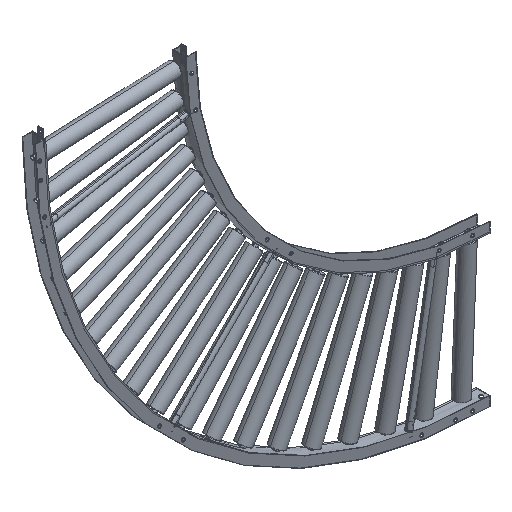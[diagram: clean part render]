
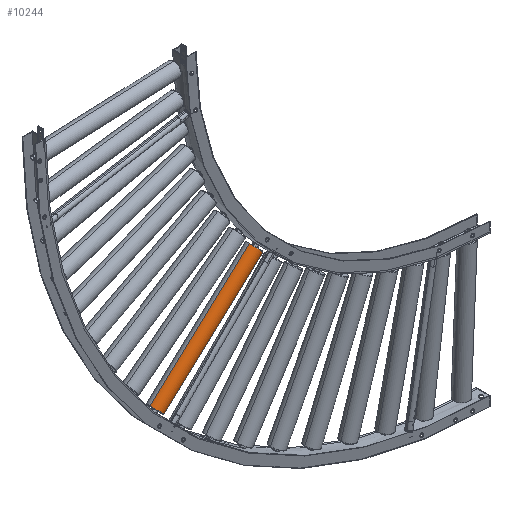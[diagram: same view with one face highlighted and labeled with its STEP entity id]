
A CAD part, isometric view. The second image highlights one B-rep face of the part: STEP entity #10244.
In plain terms, the highlighted cylindrical face has radius 21.35 mm (diameter 42.7 mm), a partial arc.
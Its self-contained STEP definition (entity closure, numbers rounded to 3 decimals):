
#699 = EDGE_CURVE ( 'NONE', #28011, #831, #27638, .T. ) ;
#831 = VERTEX_POINT ( 'NONE', #4052 ) ;
#1207 = VERTEX_POINT ( 'NONE', #21505 ) ;
#1251 = CARTESIAN_POINT ( 'NONE',  ( 212.045, 3.199, 71.697 ) ) ;
#4052 = CARTESIAN_POINT ( 'NONE',  ( -59.35, 3.199, -148.033 ) ) ;
#4144 = ORIENTED_EDGE ( 'NONE', *, *, #9491, .T. ) ;
#5944 = ORIENTED_EDGE ( 'NONE', *, *, #699, .T. ) ;
#6845 = DIRECTION ( 'NONE',  ( 0.737, 0., 0.676 ) ) ;
#7606 = DIRECTION ( 'NONE',  ( -0.737, 0., -0.676 ) ) ;
#7619 = LINE ( 'NONE', #25902, #20828 ) ;
#7654 = ORIENTED_EDGE ( 'NONE', *, *, #17459, .T. ) ;
#8325 = DIRECTION ( 'NONE',  ( 0.737, 0., 0.676 ) ) ;
#8926 = FACE_OUTER_BOUND ( 'NONE', #22468, .T. ) ;
#9491 = EDGE_CURVE ( 'NONE', #29221, #1207, #19782, .T. ) ;
#10244 = ADVANCED_FACE ( 'NONE', ( #8926 ), #22293, .T. ) ;
#10413 = ORIENTED_EDGE ( 'NONE', *, *, #16483, .F. ) ;
#10462 = AXIS2_PLACEMENT_3D ( 'NONE', #13905, #6845, #26189 ) ;
#11315 = CARTESIAN_POINT ( 'NONE',  ( 197.621, 3.199, 87.438 ) ) ;
#12365 = DIRECTION ( 'NONE',  ( 0.737, 0., 0.676 ) ) ;
#13678 = DIRECTION ( 'NONE',  ( 0.676, 0., -0.737 ) ) ;
#13905 = CARTESIAN_POINT ( 'NONE',  ( -338.363, 3.199, -432.659 ) ) ;
#15915 = DIRECTION ( 'NONE',  ( 0.737, 0., 0.676 ) ) ;
#16483 = EDGE_CURVE ( 'NONE', #29221, #831, #20677, .T. ) ;
#17459 = EDGE_CURVE ( 'NONE', #1207, #28011, #7619, .T. ) ;
#18789 = AXIS2_PLACEMENT_3D ( 'NONE', #23891, #7606, #26504 ) ;
#19782 = CIRCLE ( 'NONE', #10462, 21.35 ) ;
#20677 = LINE ( 'NONE', #11315, #27274 ) ;
#20828 = VECTOR ( 'NONE', #12365, 1000. ) ;
#21505 = CARTESIAN_POINT ( 'NONE',  ( -323.939, 3.199, -448.399 ) ) ;
#22293 = CYLINDRICAL_SURFACE ( 'NONE', #30142, 21.35 ) ;
#22468 = EDGE_LOOP ( 'NONE', ( #10413, #4144, #7654, #5944 ) ) ;
#22993 = CARTESIAN_POINT ( 'NONE',  ( -30.503, 3.199, -179.515 ) ) ;
#23891 = CARTESIAN_POINT ( 'NONE',  ( -44.926, 3.199, -163.774 ) ) ;
#25902 = CARTESIAN_POINT ( 'NONE',  ( 226.469, 3.199, 55.956 ) ) ;
#26189 = DIRECTION ( 'NONE',  ( 0.676, 0., -0.737 ) ) ;
#26504 = DIRECTION ( 'NONE',  ( -0.676, 0., 0.737 ) ) ;
#27274 = VECTOR ( 'NONE', #15915, 1000. ) ;
#27638 = CIRCLE ( 'NONE', #18789, 21.35 ) ;
#28011 = VERTEX_POINT ( 'NONE', #22993 ) ;
#29221 = VERTEX_POINT ( 'NONE', #30277 ) ;
#30142 = AXIS2_PLACEMENT_3D ( 'NONE', #1251, #8325, #13678 ) ;
#30277 = CARTESIAN_POINT ( 'NONE',  ( -352.787, 3.199, -416.918 ) ) ;
